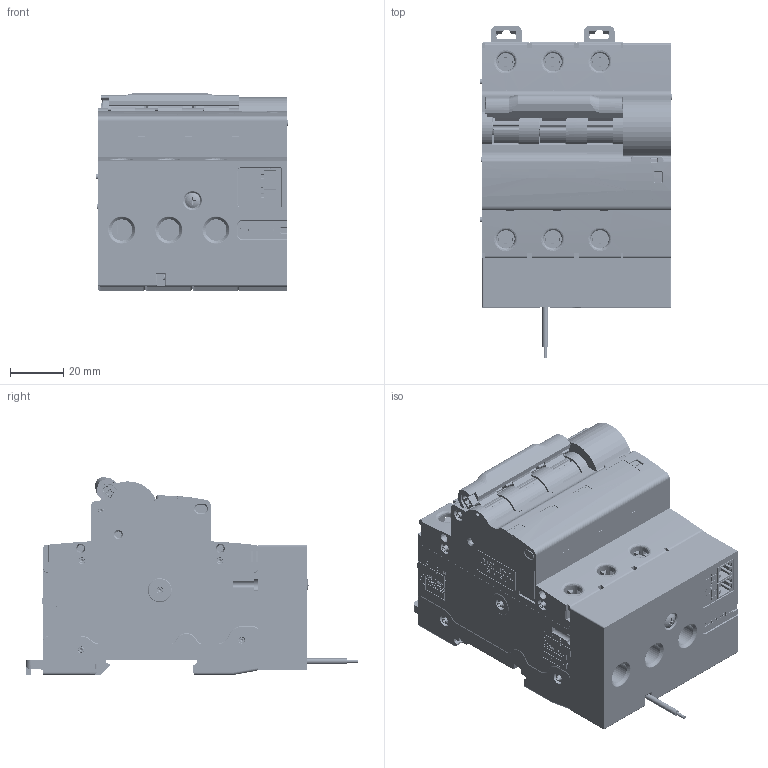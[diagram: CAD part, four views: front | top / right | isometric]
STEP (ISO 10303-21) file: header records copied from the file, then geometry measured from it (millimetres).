
FILE_DESCRIPTION((''),'2;1');
FILE_NAME('2255030900_SW0001','2023-11-10T',('wenjie.wang'),(''),'PRO/ENGINEER BY PARAMETRIC TECHNOLOGY CORPORATION, 2015440','PRO/ENGINEER BY PARAMETRIC TECHNOLOGY CORPORATION, 2015440','');
FILE_SCHEMA(('CONFIG_CONTROL_DESIGN'));
Products named in the file (1): 2255030900_SW0001
Bounding box: 71.85 x 124.78 x 74.46 mm (x, y, z)
Volume: 290920.6 mm3; surface area: 148979.1 mm2
Topology: 3 solids, 19 shells, 15498 faces, 42466 edges, 27167 vertices
Faces by surface type: plane 9547, cylinder 3056, extrusion 1584, cone 566, torus 340, bspline 204, sphere 201
Entity records: 507957 total; most frequent: CARTESIAN_POINT 120288, ORIENTED_EDGE 84862, DIRECTION 73279, EDGE_CURVE 42431, VECTOR 31975, LINE 30391, VERTEX_POINT 27168, AXIS2_PLACEMENT_3D 20652
